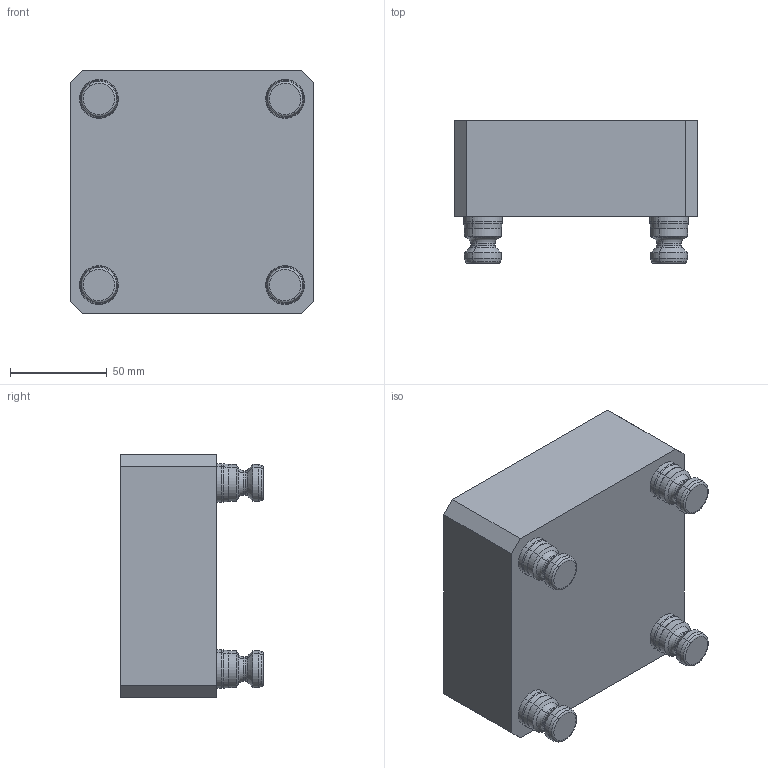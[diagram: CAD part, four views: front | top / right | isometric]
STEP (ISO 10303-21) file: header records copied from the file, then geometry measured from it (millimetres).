
FILE_DESCRIPTION (( 'STEP AP214' ), '1' );
FILE_NAME ('D_R96-BLANK.STEP', '2020-03-13T21:26:07', ( '' ), ( '' ), 'SwSTEP 2.0', 'SolidWorks 2018', '' );
FILE_SCHEMA (( 'AUTOMOTIVE_DESIGN' ));
Length unit declared in the file: millimetre
Products named in the file (3): D_R96-BLANK; D_PS20F_HARD TURN
Assembly tree (5 placements, depth 2):
  D_R96-BLANK
    D_R96-BLANK
    D_PS20F_HARD TURN  x4
Bounding box: 125.73 x 73.53 x 125.73 mm (x, y, z)
Volume: 801850.6 mm3; surface area: 65969.5 mm2
Topology: 5 solids, 5 shells, 178 faces, 352 edges, 192 vertices
Faces by surface type: torus 64, cylinder 48, cone 40, plane 26
Entity records: 1805 total; most frequent: DIRECTION 334, CARTESIAN_POINT 265, ORIENTED_EDGE 248, AXIS2_PLACEMENT_3D 141, EDGE_CURVE 124, CIRCLE 72, VERTEX_POINT 72, EDGE_LOOP 66
